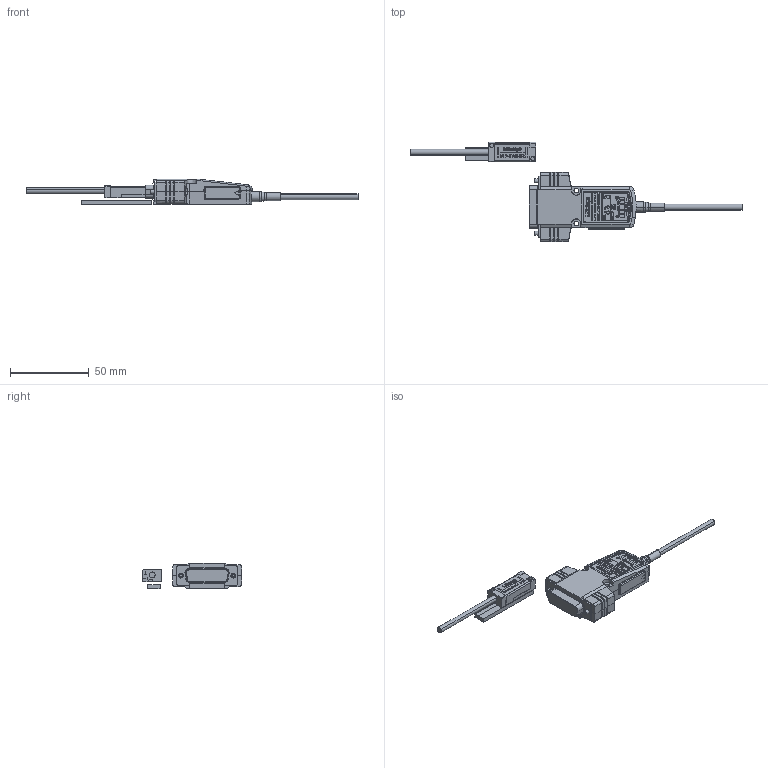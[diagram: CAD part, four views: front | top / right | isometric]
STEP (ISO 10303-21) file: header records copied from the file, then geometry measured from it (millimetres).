
FILE_DESCRIPTION(('Creo Elements/Direct Modeling STEP Export'),'2;1');
FILE_NAME('ST46EZA-25B.stp','2017-09-08T13:23:14',(''),(''),'Creo Elements/Direct Modeling STEP processor for AP214 (Solid Model)','Creo Elements/Direct Modeling 18.1B 29-Sep-2012 (C) Parametric Technology GmbH','');
FILE_SCHEMA(('AUTOMOTIVE_DESIGN { 1 0 10303 214 1 1 1 1 }'));
Length unit declared in the file: millimetre
Products named in the file (4): Scale_25; Detector_Head; IF_Unit; ST46EZA-25B
Assembly tree (3 placements, depth 2):
  ST46EZA-25B
    IF_Unit
    Detector_Head
    Scale_25
Bounding box: 211 x 63.16 x 16.48 mm (x, y, z)
Volume: 4166.7 mm3; surface area: 14770.2 mm2
Topology: 2 solids, 4 shells, 2224 faces, 5934 edges, 3867 vertices
Faces by surface type: plane 1364, cylinder 724, extrusion 39, cone 34, torus 30, bspline 29, revolution 4
Entity records: 76110 total; most frequent: CARTESIAN_POINT 20108, ORIENTED_EDGE 11859, DIRECTION 10883, EDGE_CURVE 5934, VECTOR 4071, LINE 4052, VERTEX_POINT 3867, AXIS2_PLACEMENT_3D 3403
